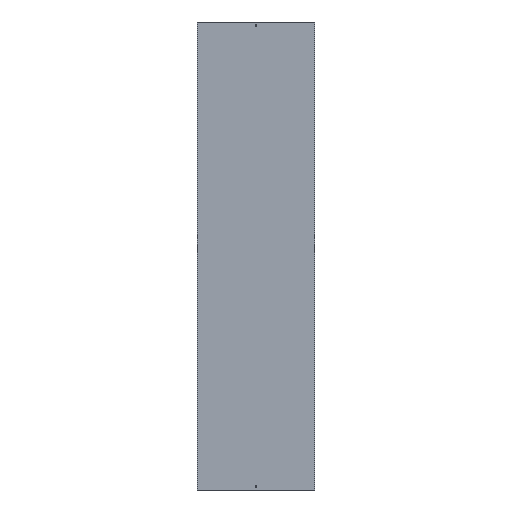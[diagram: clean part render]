
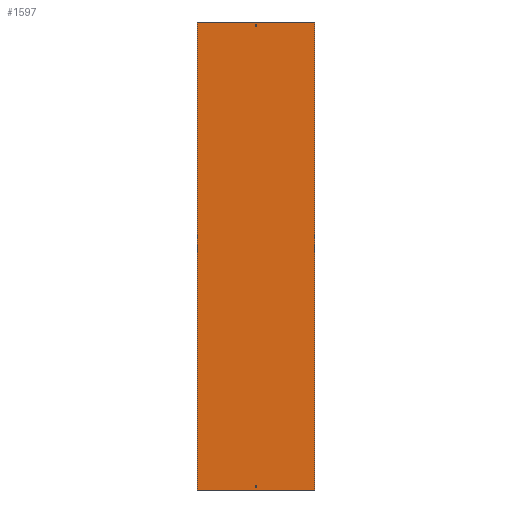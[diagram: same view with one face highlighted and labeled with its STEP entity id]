
A CAD part, front view. The second image highlights one B-rep face of the part: STEP entity #1597.
In plain terms, the highlighted planar face has unit normal (0, -1, 0).
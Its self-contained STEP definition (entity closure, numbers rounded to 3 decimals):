
#34 = ORIENTED_EDGE ( 'NONE', *, *, #452, .F. ) ;
#38 = DIRECTION ( 'NONE',  ( 1., 0., 0. ) ) ;
#52 = VERTEX_POINT ( 'NONE', #898 ) ;
#63 = VECTOR ( 'NONE', #1479, 1000. ) ;
#81 = LINE ( 'NONE', #1125, #1552 ) ;
#112 = VECTOR ( 'NONE', #339, 1000. ) ;
#130 = EDGE_CURVE ( 'NONE', #262, #254, #762, .T. ) ;
#148 = CARTESIAN_POINT ( 'NONE',  ( -252., 0., -1000. ) ) ;
#149 = ORIENTED_EDGE ( 'NONE', *, *, #321, .F. ) ;
#156 = CARTESIAN_POINT ( 'NONE',  ( -3.25, 0., -988. ) ) ;
#157 = EDGE_LOOP ( 'NONE', ( #271, #34, #1177, #612 ) ) ;
#178 = ORIENTED_EDGE ( 'NONE', *, *, #366, .F. ) ;
#179 = CARTESIAN_POINT ( 'NONE',  ( 3.25, 0., 979. ) ) ;
#218 = EDGE_CURVE ( 'NONE', #1214, #1261, #289, .T. ) ;
#240 = LINE ( 'NONE', #1266, #712 ) ;
#242 = DIRECTION ( 'NONE',  ( 0., 1., 0. ) ) ;
#247 = AXIS2_PLACEMENT_3D ( 'NONE', #1568, #242, #649 ) ;
#254 = VERTEX_POINT ( 'NONE', #1588 ) ;
#262 = VERTEX_POINT ( 'NONE', #553 ) ;
#271 = ORIENTED_EDGE ( 'NONE', *, *, #1297, .T. ) ;
#281 = FACE_OUTER_BOUND ( 'NONE', #157, .T. ) ;
#289 = LINE ( 'NONE', #433, #63 ) ;
#292 = EDGE_CURVE ( 'NONE', #1530, #1319, #881, .T. ) ;
#321 = EDGE_CURVE ( 'NONE', #1273, #918, #81, .T. ) ;
#327 = CARTESIAN_POINT ( 'NONE',  ( 3.25, 0., 988. ) ) ;
#329 = VECTOR ( 'NONE', #1083, 1000. ) ;
#339 = DIRECTION ( 'NONE',  ( 1., 0., 0. ) ) ;
#366 = EDGE_CURVE ( 'NONE', #918, #1530, #614, .T. ) ;
#368 = DIRECTION ( 'NONE',  ( 0., 0., -1. ) ) ;
#433 = CARTESIAN_POINT ( 'NONE',  ( -3.25, 0., -988. ) ) ;
#452 = EDGE_CURVE ( 'NONE', #1313, #1643, #1022, .T. ) ;
#457 = CARTESIAN_POINT ( 'NONE',  ( 3.25, 0., -988. ) ) ;
#467 = ORIENTED_EDGE ( 'NONE', *, *, #862, .T. ) ;
#469 = VECTOR ( 'NONE', #1184, 1000. ) ;
#501 = VECTOR ( 'NONE', #1073, 1000. ) ;
#553 = CARTESIAN_POINT ( 'NONE',  ( -252., 0., 1000. ) ) ;
#556 = VECTOR ( 'NONE', #38, 1000. ) ;
#581 = EDGE_LOOP ( 'NONE', ( #149, #840, #1081, #178 ) ) ;
#594 = LINE ( 'NONE', #1112, #469 ) ;
#605 = VECTOR ( 'NONE', #1431, 1000. ) ;
#606 = DIRECTION ( 'NONE',  ( -1., 0., 0. ) ) ;
#609 = VECTOR ( 'NONE', #606, 1000. ) ;
#612 = ORIENTED_EDGE ( 'NONE', *, *, #130, .T. ) ;
#614 = LINE ( 'NONE', #327, #1228 ) ;
#649 = DIRECTION ( 'NONE',  ( -1., 0., 0. ) ) ;
#698 = ORIENTED_EDGE ( 'NONE', *, *, #1038, .T. ) ;
#712 = VECTOR ( 'NONE', #895, 1000. ) ;
#720 = LINE ( 'NONE', #816, #501 ) ;
#728 = CARTESIAN_POINT ( 'NONE',  ( -3.25, 0., -979. ) ) ;
#732 = DIRECTION ( 'NONE',  ( 1., 0., 0. ) ) ;
#749 = ORIENTED_EDGE ( 'NONE', *, *, #218, .T. ) ;
#762 = LINE ( 'NONE', #1162, #605 ) ;
#769 = PLANE ( 'NONE',  #247 ) ;
#780 = FACE_BOUND ( 'NONE', #581, .T. ) ;
#788 = CARTESIAN_POINT ( 'NONE',  ( 252., 0., -1000. ) ) ;
#799 = LINE ( 'NONE', #148, #329 ) ;
#807 = VERTEX_POINT ( 'NONE', #457 ) ;
#809 = CARTESIAN_POINT ( 'NONE',  ( -3.25, 0., 979. ) ) ;
#816 = CARTESIAN_POINT ( 'NONE',  ( -3.25, 0., -988. ) ) ;
#840 = ORIENTED_EDGE ( 'NONE', *, *, #963, .F. ) ;
#862 = EDGE_CURVE ( 'NONE', #52, #807, #240, .T. ) ;
#881 = LINE ( 'NONE', #1247, #609 ) ;
#892 = LINE ( 'NONE', #728, #112 ) ;
#895 = DIRECTION ( 'NONE',  ( 0., 0., -1. ) ) ;
#898 = CARTESIAN_POINT ( 'NONE',  ( 3.25, 0., -979. ) ) ;
#918 = VERTEX_POINT ( 'NONE', #179 ) ;
#930 = ORIENTED_EDGE ( 'NONE', *, *, #1348, .T. ) ;
#963 = EDGE_CURVE ( 'NONE', #1319, #1273, #594, .T. ) ;
#1022 = LINE ( 'NONE', #1540, #1049 ) ;
#1038 = EDGE_CURVE ( 'NONE', #1261, #52, #892, .T. ) ;
#1049 = VECTOR ( 'NONE', #368, 1000. ) ;
#1067 = CARTESIAN_POINT ( 'NONE',  ( -3.25, 0., -979. ) ) ;
#1073 = DIRECTION ( 'NONE',  ( -1., 0., 0. ) ) ;
#1081 = ORIENTED_EDGE ( 'NONE', *, *, #292, .F. ) ;
#1083 = DIRECTION ( 'NONE',  ( 1., 0., 0. ) ) ;
#1094 = CARTESIAN_POINT ( 'NONE',  ( -3.25, 0., 988. ) ) ;
#1104 = LINE ( 'NONE', #1595, #556 ) ;
#1112 = CARTESIAN_POINT ( 'NONE',  ( -3.25, 0., 988. ) ) ;
#1125 = CARTESIAN_POINT ( 'NONE',  ( -3.25, 0., 979. ) ) ;
#1162 = CARTESIAN_POINT ( 'NONE',  ( -252., 0., 1000. ) ) ;
#1177 = ORIENTED_EDGE ( 'NONE', *, *, #1308, .F. ) ;
#1184 = DIRECTION ( 'NONE',  ( 0., 0., -1. ) ) ;
#1186 = FACE_BOUND ( 'NONE', #1652, .T. ) ;
#1214 = VERTEX_POINT ( 'NONE', #156 ) ;
#1228 = VECTOR ( 'NONE', #1632, 1000. ) ;
#1247 = CARTESIAN_POINT ( 'NONE',  ( -3.25, 0., 988. ) ) ;
#1261 = VERTEX_POINT ( 'NONE', #1067 ) ;
#1266 = CARTESIAN_POINT ( 'NONE',  ( 3.25, 0., -988. ) ) ;
#1269 = CARTESIAN_POINT ( 'NONE',  ( 3.25, 0., 988. ) ) ;
#1273 = VERTEX_POINT ( 'NONE', #809 ) ;
#1297 = EDGE_CURVE ( 'NONE', #254, #1643, #799, .T. ) ;
#1308 = EDGE_CURVE ( 'NONE', #262, #1313, #1104, .T. ) ;
#1313 = VERTEX_POINT ( 'NONE', #1471 ) ;
#1319 = VERTEX_POINT ( 'NONE', #1094 ) ;
#1348 = EDGE_CURVE ( 'NONE', #807, #1214, #720, .T. ) ;
#1431 = DIRECTION ( 'NONE',  ( 0., 0., -1. ) ) ;
#1471 = CARTESIAN_POINT ( 'NONE',  ( 252., 0., 1000. ) ) ;
#1479 = DIRECTION ( 'NONE',  ( 0., 0., 1. ) ) ;
#1530 = VERTEX_POINT ( 'NONE', #1269 ) ;
#1540 = CARTESIAN_POINT ( 'NONE',  ( 252., 0., 1000. ) ) ;
#1552 = VECTOR ( 'NONE', #732, 1000. ) ;
#1568 = CARTESIAN_POINT ( 'NONE',  ( -252., 0., 1000. ) ) ;
#1588 = CARTESIAN_POINT ( 'NONE',  ( -252., 0., -1000. ) ) ;
#1595 = CARTESIAN_POINT ( 'NONE',  ( -252., 0., 1000. ) ) ;
#1597 = ADVANCED_FACE ( 'NONE', ( #281, #780, #1186 ), #769, .F. ) ;
#1632 = DIRECTION ( 'NONE',  ( 0., 0., 1. ) ) ;
#1643 = VERTEX_POINT ( 'NONE', #788 ) ;
#1652 = EDGE_LOOP ( 'NONE', ( #749, #698, #467, #930 ) ) ;
